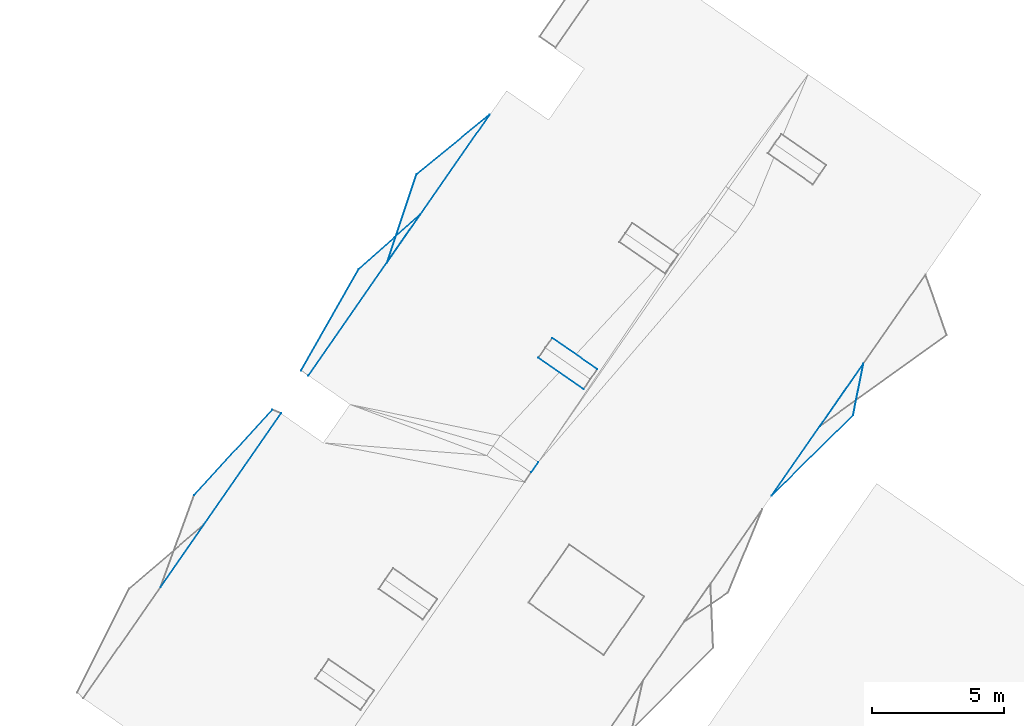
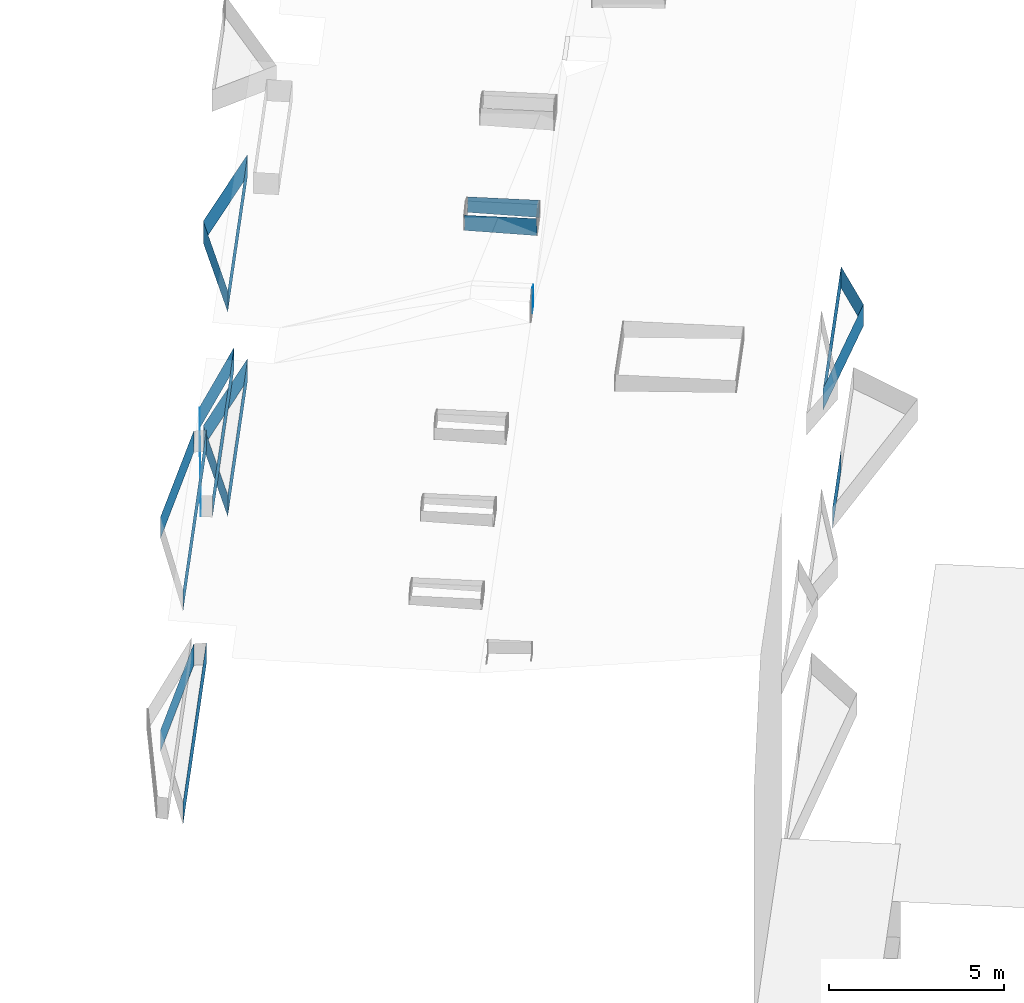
# Not in any storey, part 40 of 136: 37 walls.
"""IFC2X3 building model written with IfcOpenShell, lengths in metres."""

from ifc_helpers import new_model, entity, si_unit, converted_unit, frame, origin, place, context, subcontext, project, spatial, face_set, surface_model, element, save


model = new_model("IFC2X3")

# Units and contexts
model_context = context("Model", 3, precision=1e-05, world=origin())
body_context = subcontext(model_context, "Body", "Model", "MODEL_VIEW")
ifc_project = project(units=[converted_unit("PLANEANGLEUNIT", "DEGREE", entity("IfcRatioMeasure", 0.0174532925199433), si_unit("PLANEANGLEUNIT", "RADIAN"), dimensions=[0, 0, 0, 0, 0, 0, 0]), si_unit("AREAUNIT", "SQUARE_METRE"), si_unit("LENGTHUNIT", "METRE")], contexts=[model_context])

# Site, building
site_placement = place(None, origin())
site = spatial("IfcSite", under=ifc_project, at=site_placement, Name="_site", CompositionType="ELEMENT")
building_placement = place(site_placement, origin())
building = spatial("IfcBuilding", under=site, at=building_placement, Name="_building", CompositionType="ELEMENT")

# Walls
wall_1_placement = place(building_placement, origin())
element("IfcWall", 1, at=wall_1_placement, inside=building, Name="Wall", context=body_context, shape_type="SurfaceModel", body=[
    surface_model("IfcFaceBasedSurfaceModel", [(-31.43, 74.28, 47.47), (-27.96, 79.271, 47.47), (-27.96, 79.271, 48.22), (-31.43, 74.28, 48.22)], [face_set([[[0, 1, 2, 3]]])]),
])
wall_2_placement = place(building_placement, origin())
element("IfcWall", 2, at=wall_2_placement, inside=building, Name="Wall", context=body_context, shape_type="SurfaceModel", body=[
    surface_model("IfcFaceBasedSurfaceModel", [(-27.96, 79.271, 47.47), (-28.35, 77.32, 47.47), (-28.35, 77.32, 48.22), (-27.96, 79.271, 48.22)], [face_set([[[0, 1, 2, 3]]])]),
])
wall_3_placement = place(building_placement, origin())
element("IfcWall", 3, at=wall_3_placement, inside=building, Name="Wall", context=body_context, shape_type="SurfaceModel", body=[
    surface_model("IfcFaceBasedSurfaceModel", [(-31.43, 74.28, 47.47), (-27.96, 79.271, 47.47), (-27.96, 79.271, 48.22), (-31.43, 74.28, 48.22)], [face_set([[[0, 1, 2, 3]]])]),
])
wall_4_placement = place(building_placement, origin())
element("IfcWall", 4, at=wall_4_placement, inside=building, Name="Wall", context=body_context, shape_type="SurfaceModel", body=[
    surface_model("IfcFaceBasedSurfaceModel", [(-28.35, 77.32, 47.47), (-31.43, 74.28, 47.47), (-31.43, 74.28, 48.22), (-28.35, 77.32, 48.22)], [face_set([[[0, 1, 2, 3]]])]),
])
wall_5_placement = place(building_placement, origin())
element("IfcWall", 5, at=wall_5_placement, inside=building, Name="Wall", context=body_context, shape_type="SurfaceModel", body=[
    surface_model("IfcFaceBasedSurfaceModel", [(-27.96, 79.271, 47.47), (-28.35, 77.32, 47.47), (-28.35, 77.32, 48.22), (-27.96, 79.271, 48.22)], [face_set([[[0, 1, 2, 3]]])]),
])
for number, where, name in (
    (6, (0.0, 0.0, 0.0), "Wall"),
    (7, (0.0, 0.0, 0.0), "Wall"),
):
    element("IfcWall", number, at=place(building_placement, frame(where)), inside=building, Name=name, context=body_context, shape_type="SurfaceModel", body=[
        surface_model("IfcFaceBasedSurfaceModel", [(-29.6, 76.91, 41.1), (-27.96, 79.271, 41.1), (-27.96, 79.271, 41.85), (-29.6, 76.91, 41.85)], [face_set([[[0, 1, 2, 3]]])]),
    ])
for number, where, name in (
    (8, (0.0, 0.0, 0.0), "Wall"),
    (9, (0.0, 0.0, 0.0), "Wall"),
):
    element("IfcWall", number, at=place(building_placement, frame(where)), inside=building, Name=name, context=body_context, shape_type="SurfaceModel", body=[
        surface_model("IfcFaceBasedSurfaceModel", [(-53.26, 74.3, 50.62), (-50.3, 77.53, 50.62), (-50.3, 77.53, 51.37), (-53.26, 74.3, 51.37)], [face_set([[[0, 1, 2, 3]]])]),
    ])
wall_6_placement = place(building_placement, origin())
element("IfcWall", 10, at=wall_6_placement, inside=building, Name="Wall", context=body_context, shape_type="SurfaceModel", body=[
    surface_model("IfcFaceBasedSurfaceModel", [(-49.97, 77.39, 50.62), (-54.53, 70.82, 50.62), (-54.53, 70.82, 51.37), (-49.97, 77.39, 51.37)], [face_set([[[0, 1, 2, 3]]])]),
])
wall_7_placement = place(building_placement, origin())
element("IfcWall", 11, at=wall_7_placement, inside=building, Name="Wall", context=body_context, shape_type="SurfaceModel", body=[
    surface_model("IfcFaceBasedSurfaceModel", [(-38.54, 78.3, 54.18), (-40.25, 79.49, 54.18), (-40.25, 79.49, 53.648), (-38.54, 78.3, 53.587)], [face_set([[[0, 1, 2, 3]]])]),
])
wall_8_placement = place(building_placement, origin())
element("IfcWall", 12, at=wall_8_placement, inside=building, Name="Wall", context=body_context, shape_type="SurfaceModel", body=[
    surface_model("IfcFaceBasedSurfaceModel", [(-49.97, 77.39, 50.62), (-54.53, 70.82, 50.62), (-54.53, 70.82, 51.37), (-49.97, 77.39, 51.37)], [face_set([[[0, 1, 2, 3]]])]),
])
for number, where, name in (
    (13, (0.0, 0.0, 0.0), "Wall"),
    (14, (0.0, 0.0, 0.0), "Wall"),
):
    element("IfcWall", number, at=place(building_placement, frame(where)), inside=building, Name=name, context=body_context, shape_type="SurfaceModel", body=[
        surface_model("IfcFaceBasedSurfaceModel", [(-44.71, 84.91, 47.1), (-48.94, 78.82, 47.1), (-48.94, 78.82, 47.85), (-44.71, 84.91, 47.85)], [face_set([[[0, 1, 2, 3]]])]),
    ])
wall_9_placement = place(building_placement, origin())
element("IfcWall", 15, at=wall_9_placement, inside=building, Name="Wall", context=body_context, shape_type="SurfaceModel", body=[
    surface_model("IfcFaceBasedSurfaceModel", [(-39.72, 80.24, 54.18), (-38.02, 79.061, 54.18), (-38.02, 79.061, 53.577), (-39.72, 80.24, 53.637)], [face_set([[[0, 1, 2, 3]]])]),
])
wall_10_placement = place(building_placement, origin())
element("IfcWall", 16, at=wall_10_placement, inside=building, Name="Wall", context=body_context, shape_type="SurfaceModel", body=[
    surface_model("IfcFaceBasedSurfaceModel", [(-44.85, 86.43, 43.5), (-42.08, 88.69, 43.5), (-42.08, 88.69, 44.25), (-44.85, 86.43, 44.25)], [face_set([[[0, 1, 2, 3]]])]),
])
wall_11_placement = place(building_placement, origin())
element("IfcWall", 17, at=wall_11_placement, inside=building, Name="Wall", context=body_context, shape_type="SurfaceModel", body=[
    surface_model("IfcFaceBasedSurfaceModel", [(-45.97, 83.09, 43.5), (-44.85, 86.43, 43.5), (-44.85, 86.43, 44.25), (-45.97, 83.09, 44.25)], [face_set([[[0, 1, 2, 3]]])]),
])
wall_12_placement = place(building_placement, origin())
element("IfcWall", 18, at=wall_12_placement, inside=building, Name="Wall", context=body_context, shape_type="SurfaceModel", body=[
    surface_model("IfcFaceBasedSurfaceModel", [(-40.248, 75.549, 54.18), (-40.519, 75.159, 54.35), (-40.519, 75.159, 53.46), (-40.248, 75.549, 53.46)], [face_set([[[0, 1, 2, 3]]])]),
])
wall_13_placement = place(building_placement, origin())
element("IfcWall", 19, at=wall_13_placement, inside=building, Name="Wall", context=body_context, shape_type="SurfaceModel", body=[
    surface_model("IfcFaceBasedSurfaceModel", [(-44.85, 86.43, 43.5), (-42.08, 88.69, 43.5), (-42.08, 88.69, 44.25), (-44.85, 86.43, 44.25)], [face_set([[[0, 1, 2, 3]]])]),
])
wall_14_placement = place(building_placement, origin())
element("IfcWall", 20, at=wall_14_placement, inside=building, Name="Wall", context=body_context, shape_type="SurfaceModel", body=[
    surface_model("IfcFaceBasedSurfaceModel", [(-45.97, 83.09, 43.5), (-44.85, 86.43, 43.5), (-44.85, 86.43, 44.25), (-45.97, 83.09, 44.25)], [face_set([[[0, 1, 2, 3]]])]),
])
for number, where, name in (
    (21, (0.0, 0.0, 0.0), "Wall"),
    (22, (0.0, 0.0, 0.0), "Wall"),
):
    element("IfcWall", number, at=place(building_placement, frame(where)), inside=building, Name=name, context=body_context, shape_type="SurfaceModel", body=[
        surface_model("IfcFaceBasedSurfaceModel", [(-42.08, 88.69, 43.5), (-45.97, 83.09, 43.5), (-45.97, 83.09, 44.25), (-42.08, 88.69, 44.25)], [face_set([[[0, 1, 2, 3]]])]),
    ])
wall_15_placement = place(building_placement, origin())
element("IfcWall", 23, at=wall_15_placement, inside=building, Name="Wall", context=body_context, shape_type="SurfaceModel", body=[
    surface_model("IfcFaceBasedSurfaceModel", [(-45.97, 83.09, 50.62), (-44.85, 86.43, 50.62), (-44.85, 86.43, 51.37), (-45.97, 83.09, 51.37)], [face_set([[[0, 1, 2, 3]]])]),
])
wall_16_placement = place(building_placement, origin())
element("IfcWall", 24, at=wall_16_placement, inside=building, Name="Wall", context=body_context, shape_type="SurfaceModel", body=[
    surface_model("IfcFaceBasedSurfaceModel", [(-42.08, 88.69, 50.62), (-45.97, 83.09, 50.62), (-45.97, 83.09, 51.37), (-42.08, 88.69, 51.37)], [face_set([[[0, 1, 2, 3]]])]),
])
wall_17_placement = place(building_placement, origin())
element("IfcWall", 25, at=wall_17_placement, inside=building, Name="Wall", context=body_context, shape_type="SurfaceModel", body=[
    surface_model("IfcFaceBasedSurfaceModel", [(-44.85, 86.43, 50.62), (-42.08, 88.69, 50.62), (-42.08, 88.69, 51.37), (-44.85, 86.43, 51.37)], [face_set([[[0, 1, 2, 3]]])]),
])
wall_18_placement = place(building_placement, origin())
element("IfcWall", 26, at=wall_18_placement, inside=building, Name="Wall", context=body_context, shape_type="SurfaceModel", body=[
    surface_model("IfcFaceBasedSurfaceModel", [(-42.08, 88.69, 50.62), (-45.97, 83.09, 50.62), (-45.97, 83.09, 51.37), (-42.08, 88.69, 51.37)], [face_set([[[0, 1, 2, 3]]])]),
])
wall_19_placement = place(building_placement, origin())
element("IfcWall", 27, at=wall_19_placement, inside=building, Name="Wall", context=body_context, shape_type="SurfaceModel", body=[
    surface_model("IfcFaceBasedSurfaceModel", [(-53.26, 74.3, 43.2), (-50.3, 77.53, 43.2), (-50.3, 77.53, 43.95), (-53.26, 74.3, 43.95)], [face_set([[[0, 1, 2, 3]]])]),
])
wall_20_placement = place(building_placement, origin())
element("IfcWall", 28, at=wall_20_placement, inside=building, Name="Wall", context=body_context, shape_type="SurfaceModel", body=[
    surface_model("IfcFaceBasedSurfaceModel", [(-49.97, 77.39, 43.2), (-54.53, 70.82, 43.2), (-54.53, 70.82, 43.95), (-49.97, 77.39, 43.95)], [face_set([[[0, 1, 2, 3]]])]),
])
wall_21_placement = place(building_placement, origin())
element("IfcWall", 29, at=wall_21_placement, inside=building, Name="Wall", context=body_context, shape_type="SurfaceModel", body=[
    surface_model("IfcFaceBasedSurfaceModel", [(-53.26, 74.3, 43.2), (-50.3, 77.53, 43.2), (-50.3, 77.53, 43.95), (-53.26, 74.3, 43.95)], [face_set([[[0, 1, 2, 3]]])]),
])
wall_22_placement = place(building_placement, origin())
element("IfcWall", 30, at=wall_22_placement, inside=building, Name="Wall", context=body_context, shape_type="SurfaceModel", body=[
    surface_model("IfcFaceBasedSurfaceModel", [(-49.97, 77.39, 43.2), (-54.53, 70.82, 43.2), (-54.53, 70.82, 43.95), (-49.97, 77.39, 43.95)], [face_set([[[0, 1, 2, 3]]])]),
])
wall_23_placement = place(building_placement, origin())
element("IfcWall", 31, at=wall_23_placement, inside=building, Name="Wall", context=body_context, shape_type="SurfaceModel", body=[
    surface_model("IfcFaceBasedSurfaceModel", [(-44.85, 86.43, 50.62), (-42.08, 88.69, 50.62), (-42.08, 88.69, 51.37), (-44.85, 86.43, 51.37)], [face_set([[[0, 1, 2, 3]]])]),
])
wall_24_placement = place(building_placement, origin())
element("IfcWall", 32, at=wall_24_placement, inside=building, Name="Wall", context=body_context, shape_type="SurfaceModel", body=[
    surface_model("IfcFaceBasedSurfaceModel", [(-47.04, 82.84, 47.1), (-44.71, 84.91, 47.1), (-44.71, 84.91, 47.85), (-47.04, 82.84, 47.85)], [face_set([[[0, 1, 2, 3]]])]),
])
wall_25_placement = place(building_placement, origin())
element("IfcWall", 33, at=wall_25_placement, inside=building, Name="Wall", context=body_context, shape_type="SurfaceModel", body=[
    surface_model("IfcFaceBasedSurfaceModel", [(-49.22, 79.01, 47.1), (-47.04, 82.84, 47.1), (-47.04, 82.84, 47.85), (-49.22, 79.01, 47.85)], [face_set([[[0, 1, 2, 3]]])]),
])
wall_26_placement = place(building_placement, origin())
element("IfcWall", 34, at=wall_26_placement, inside=building, Name="Wall", context=body_context, shape_type="SurfaceModel", body=[
    surface_model("IfcFaceBasedSurfaceModel", [(-47.04, 82.84, 47.1), (-44.71, 84.91, 47.1), (-44.71, 84.91, 47.85), (-47.04, 82.84, 47.85)], [face_set([[[0, 1, 2, 3]]])]),
])
wall_27_placement = place(building_placement, origin())
element("IfcWall", 35, at=wall_27_placement, inside=building, Name="Wall", context=body_context, shape_type="SurfaceModel", body=[
    surface_model("IfcFaceBasedSurfaceModel", [(-49.22, 79.01, 47.1), (-47.04, 82.84, 47.1), (-47.04, 82.84, 47.85), (-49.22, 79.01, 47.85)], [face_set([[[0, 1, 2, 3]]])]),
])
wall_28_placement = place(building_placement, origin())
element("IfcWall", 36, at=wall_28_placement, inside=building, Name="Wall", context=body_context, shape_type="SurfaceModel", body=[
    surface_model("IfcFaceBasedSurfaceModel", [(-45.97, 83.09, 50.62), (-44.85, 86.43, 50.62), (-44.85, 86.43, 51.37), (-45.97, 83.09, 51.37)], [face_set([[[0, 1, 2, 3]]])]),
])
wall_29_placement = place(building_placement, origin())
element("IfcWall", 37, at=wall_29_placement, inside=building, Name="Wall", context=body_context, shape_type="SurfaceModel", body=[
    surface_model("IfcFaceBasedSurfaceModel", [(-28.35, 77.32, 47.47), (-31.43, 74.28, 47.47), (-31.43, 74.28, 48.22), (-28.35, 77.32, 48.22)], [face_set([[[0, 1, 2, 3]]])]),
])

save(model, "model.ifc")
